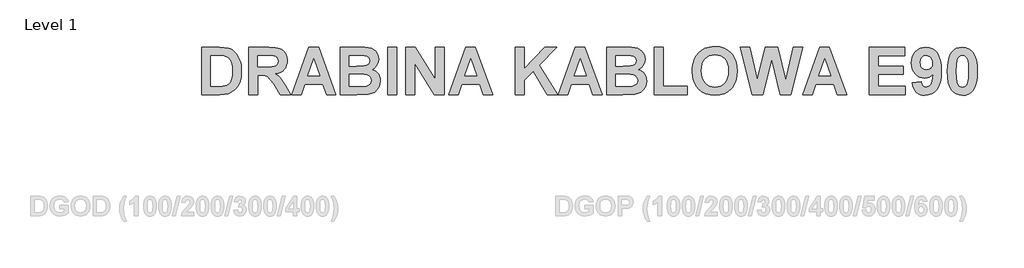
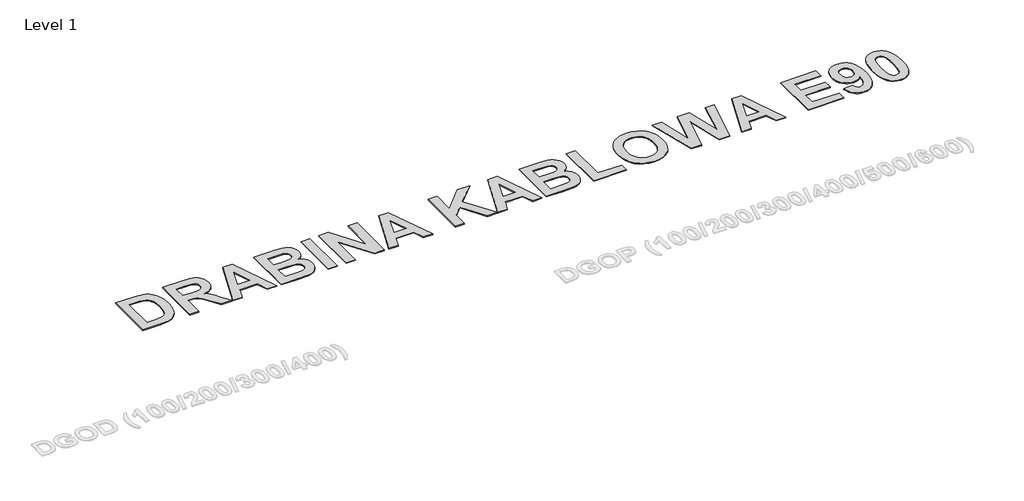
# One storey, part 31 of 42: 1 proxy.
"""IFC4 building model written with IfcOpenShell, lengths in millimetres."""

import ifcopenshell
import ifcopenshell.guid

model = None  # the IFC model being written
_history = None  # IfcOwnerHistory: only IFC2X3 demands one
_inside = {}  # id of a spatial element -> (the spatial element, [elements in it])
_under = {}  # id of a project, library or spatial element -> (it, [spatial elements below it])
_declared = {}  # id of a project -> (the project, [libraries it declares])
_typed = {}  # id of a type object -> (the type object, [elements of that type])
_made_of = {}  # id of a material, layer set ... -> (it, [elements and type objects made of it])


def new_model(schema):
    """Start an empty IFC model of exactly this schema.

    Asked for "IFC4X3", IfcOpenShell would pick the latest addendum, in which some entities
    have other attributes; the version numbers below select the first issue.
    IFC2X3 requires an IfcOwnerHistory on every rooted entity: one is made here for all.
    """
    global model, _history
    if schema == "IFC4X3":
        model = ifcopenshell.file(schema_version=(4, 3, 0, 0))
    else:
        model = ifcopenshell.file(schema=schema)
    _inside.clear()
    _under.clear()
    _declared.clear()
    _typed.clear()
    _made_of.clear()
    _history = None
    if model.schema == "IFC2X3":
        org = make("IfcOrganization", Name="unknown")
        user = make(
            "IfcPersonAndOrganization",
            ThePerson=make("IfcPerson", FamilyName="unknown"),
            TheOrganization=org,
        )
        app = make(
            "IfcApplication",
            ApplicationDeveloper=org,
            Version="unknown",
            ApplicationFullName="unknown",
            ApplicationIdentifier="unknown",
        )
        _history = make(
            "IfcOwnerHistory",
            OwningUser=user,
            OwningApplication=app,
            ChangeAction="ADDED",
            CreationDate=0,
        )
    return model


def make(cls, **values):
    """One entity of the class cls with the attributes given. An attribute that is None is left unset."""
    return model.create_entity(
        cls, **{name: value for name, value in values.items() if value is not None}
    )


def rooted(cls, **values):
    """An entity with a GlobalId (a new one), such as an element, a storey or a relation."""
    return make(cls, GlobalId=ifcopenshell.guid.new(), OwnerHistory=_history, **values)


def si_unit(unit_type, name, prefix=None):
    """IfcSIUnit, for example si_unit("LENGTHUNIT", "METRE", prefix="MILLI")."""
    return make("IfcSIUnit", UnitType=unit_type, Prefix=prefix, Name=name)


def assignment(units):
    """IfcUnitAssignment: the units of a project."""
    return None if units is None else make("IfcUnitAssignment", Units=units)


def point(xyz):
    """IfcCartesianPoint."""
    return None if xyz is None else make("IfcCartesianPoint", Coordinates=xyz)


def direction(xyz):
    """IfcDirection."""
    return None if xyz is None else make("IfcDirection", DirectionRatios=xyz)


def frame(location, z_axis=None, x_axis=None):
    """IfcAxis2Placement3D, a coordinate frame: its origin and axes. An axis left out is left unset."""
    return make(
        "IfcAxis2Placement3D",
        Location=point(location),
        Axis=direction(z_axis),
        RefDirection=direction(x_axis),
    )


def origin():
    """The frame at (0, 0, 0) with its axes left unset."""
    return frame((0.0, 0.0, 0.0))


def origin_with_axes():
    """The frame at (0, 0, 0) with the z axis (0, 0, 1) and the x axis (1, 0, 0) written out."""
    return frame((0.0, 0.0, 0.0), z_axis=(0.0, 0.0, 1.0), x_axis=(1.0, 0.0, 0.0))


def place(relative_to, where):
    """IfcLocalPlacement: puts the frame where relative to a parent placement (None: the world)."""
    return make(
        "IfcLocalPlacement", PlacementRelTo=relative_to, RelativePlacement=where
    )


def context(
    kind, dimensions, precision=None, world=None, true_north=None, identifier=None
):
    """IfcGeometricRepresentationContext, for example the 3D "Model" context."""
    return make(
        "IfcGeometricRepresentationContext",
        ContextIdentifier=identifier,
        ContextType=kind,
        CoordinateSpaceDimension=dimensions,
        Precision=precision,
        WorldCoordinateSystem=world,
        TrueNorth=true_north,
    )


def project(units=None, contexts=None):
    """IfcProject with its units and contexts."""
    return rooted(
        "IfcProject",
        Name="project",
        RepresentationContexts=contexts,
        UnitsInContext=assignment(units),
    )


def spatial(cls, under=None, at=None, **own):
    """A site, building, storey or space (cls), placed at a placement, below another one or the project."""
    s = rooted(cls, ObjectPlacement=at, **own)
    if under is not None:
        _under.setdefault(under.id(), (under, []))[1].append(s)
    return s


def polyline(points):
    """IfcPolyline through the points."""
    return make("IfcPolyline", Points=[point(p) for p in points])


def outline(outer, holes=None, kind="AREA"):
    """IfcArbitraryClosedProfileDef: a profile drawn as a closed curve; with holes, ...WithVoids."""
    if holes is None:
        return make("IfcArbitraryClosedProfileDef", ProfileType=kind, OuterCurve=outer)
    return make(
        "IfcArbitraryProfileDefWithVoids",
        ProfileType=kind,
        OuterCurve=outer,
        InnerCurves=holes,
    )


def extrude(swept, where, along, depth):
    """IfcExtrudedAreaSolid: the profile swept, set in the frame where, extruded along a direction by depth."""
    return make(
        "IfcExtrudedAreaSolid",
        SweptArea=swept,
        Position=where,
        ExtrudedDirection=direction(along),
        Depth=depth,
    )


def shape(context_of_items, identifier, shape_type, items):
    """IfcShapeRepresentation: the items that make up one representation, for example the "Body"."""
    return make(
        "IfcShapeRepresentation",
        ContextOfItems=context_of_items,
        RepresentationIdentifier=identifier,
        RepresentationType=shape_type,
        Items=items,
    )


def made_of(thing, what):
    """Note that an element or type object is made of a material, layer set ...; save() writes the relation."""
    if what is not None:
        _made_of.setdefault(what.id(), (what, []))[1].append(thing)
    return thing


def element(
    cls,
    number,
    at=None,
    inside=None,
    cuts=None,
    type_object=None,
    material=None,
    context=None,
    identifier="Body",
    shape_type=None,
    held_by="IfcProductDefinitionShape",
    body=None,
    shapes=None,
    **own,
):
    """One element of the class cls, such as IfcWall. Its Tag is "e" and its number.

    at: its placement. inside: the storey or other place that contains it. cuts: it is an
    opening in that element (IfcRelVoidsElement). A single representation is given by context,
    identifier, shape_type and body (its items); several are given by shapes. held_by: the class
    of the entity that holds the representations. save() writes the other relations.
    """
    e = rooted(cls, Tag="e%d" % number, ObjectPlacement=at, **own)
    if body is not None:
        shapes = [shape(context, identifier, shape_type, body)]
    if shapes is not None:
        e.Representation = make(held_by, Representations=shapes)
    if inside is not None:
        _inside.setdefault(inside.id(), (inside, []))[1].append(e)
    if cuts is not None:
        rooted(
            "IfcRelVoidsElement", RelatingBuildingElement=cuts, RelatedOpeningElement=e
        )
    if type_object is not None:
        _typed.setdefault(type_object.id(), (type_object, []))[1].append(e)
    return made_of(e, material)


def aggregate(whole, parts):
    """IfcRelAggregates: a whole, such as a stair, and the parts it consists of."""
    return rooted("IfcRelAggregates", RelatingObject=whole, RelatedObjects=parts)


def save(model, path):
    """Write the relations noted so far, then the file.

    IfcRelAggregates (storeys below a building ...), IfcRelContainedInSpatialStructure (elements
    in a storey), IfcRelDefinesByType, IfcRelAssociatesMaterial and IfcRelDeclares: one each for
    every whole, place, type object, material and project.
    """
    for whole, parts in _under.values():
        aggregate(whole, parts)
    for where, things in _inside.values():
        rooted(
            "IfcRelContainedInSpatialStructure",
            RelatedElements=things,
            RelatingStructure=where,
        )
    for kind, things in _typed.values():
        rooted("IfcRelDefinesByType", RelatedObjects=things, RelatingType=kind)
    for what, things in _made_of.values():
        rooted("IfcRelAssociatesMaterial", RelatedObjects=things, RelatingMaterial=what)
    for by, libraries in _declared.values():
        rooted("IfcRelDeclares", RelatingContext=by, RelatedDefinitions=libraries)
    model.write(path)


model = new_model("IFC4")

# Units and contexts
model_context = context("Model", 3, world=origin())
ifc_project = project(units=[si_unit("LENGTHUNIT", "METRE", prefix="MILLI")], contexts=[model_context])

# Site, building, storey
site = spatial("IfcSite", under=ifc_project)
building = spatial("IfcBuilding", under=site)
storey = spatial("IfcBuildingStorey", under=building, Name="Level 1", Elevation=0.0)

# Proxy
placement = place(None, origin())
element("IfcBuildingElementProxy", 1, Name="600mm Arial", ObjectType="600mm Arial", at=placement, inside=storey, context=model_context, shape_type="SweptSolid", body=[
    extrude(outline(polyline([(15755.7457223, 6390.0050794), (15982.4194253, 6390.0050794), (16049.9812456, 6387.0824614), (16099.3241482, 6378.3146072), (16125.3809963, 6368.8113539), (16149.5020844, 6356.2431473), (16171.6874125, 6340.6099873), (16191.9369806, 6321.911874), (16210.0657528, 6300.5426016), (16225.8886931, 6276.8959644), (16250.6170785, 6222.770596), (16259.4181443, 6191.7177789), (16265.7046199, 6157.2394258), (16270.7338003, 6078.0061112), (16266.0272465, 6007.7114531), (16251.9075852, 5947.7408485), (16239.1353647, 5915.9336544), (16223.895999, 5887.3147709), (16206.1894882, 5861.8841981), (16186.0158323, 5839.6419359), (16148.1356656, 5811.782174), (16098.8686752, 5790.7545063), (16050.9301476, 5781.0757062), (15989.0996951, 5777.8494395), (15755.7457223, 5777.8494395), (15755.7457223, 6390.0050794)]), holes=[polyline([(15872.3467965, 6283.1207614), (15872.3467965, 5884.7337576), (15971.6398989, 5884.7337576), (16019.6163825, 5886.1760886), (16052.1067861, 5890.5030816), (16081.6935495, 5900.3906401), (16105.7766816, 5915.4781814), (16125.1532598, 5938.840148), (16140.620362, 5973.5509821), (16150.754635, 6021.2997293), (16154.132726, 6083.7754351), (16150.754635, 6145.3781511), (16140.620362, 6190.8115776), (16124.4320943, 6224.0611026), (16102.8920196, 6249.1121147), (16075.3928404, 6266.6478231), (16041.3272597, 6277.3514374), (16000.0690019, 6281.6784304), (15932.1655768, 6283.1207614), (15872.3467965, 6283.1207614)])]), origin_with_axes(), (0.0, 0.0, 1.0), 10.0),
    extrude(outline(polyline([(16367.9013622, 5777.8494395), (16367.9013622, 6390.0050794), (16625.3954013, 6390.0050794), (16709.2783356, 6385.8678669), (16741.256332, 6380.6963511), (16766.5920147, 6373.4562291), (16787.5058141, 6363.5686705), (16806.218161, 6350.4548453), (16822.7290553, 6334.1147533), (16837.038497, 6314.5483947), (16848.596123, 6292.6002921), (16856.8515702, 6269.1149683), (16861.8048385, 6244.0924233), (16863.4559279, 6217.5326571), (16861.0694395, 6184.4254673), (16853.9099741, 6154.3357858), (16841.9775318, 6127.2636125), (16825.2721126, 6103.2089475), (16803.8126945, 6082.750621), (16777.6182556, 6066.4674632), (16746.6887958, 6054.359474), (16711.0243152, 6046.4266535), (16744.8431815, 6022.0588509), (16772.2095143, 5995.4136835), (16800.5247492, 5956.8123513), (16837.1903213, 5896.5760542), (16912.0397089, 5777.8494395), (16775.8532979, 5777.8494395), (16687.1878977, 5917.679634), (16644.3544627, 5971.3685076), (16617.576449, 6000.6516224), (16598.2568049, 6015.0559544), (16577.7984784, 6024.1084792), (16550.6409039, 6028.8909451), (16511.223516, 6030.4851004), (16484.5024365, 6030.4851004), (16484.5024365, 5777.8494395), (16367.9013622, 5777.8494395)]), holes=[polyline([(16484.5024365, 6137.3694185), (16580.6072282, 6137.3694185), (16656.4624518, 6139.1343762), (16697.2842146, 6144.4292492), (16718.0461898, 6154.0321371), (16733.7220504, 6168.7211396), (16743.5716528, 6188.0977179), (16746.8548536, 6211.7633331), (16742.5278607, 6237.9720055), (16729.5468817, 6258.6011344), (16708.6710383, 6273.1572907), (16680.6594521, 6281.1470453), (16585.9210792, 6283.1207614), (16484.5024365, 6283.1207614), (16484.5024365, 6137.3694185)])]), origin_with_axes(), (0.0, 0.0, 1.0), 10.0),
    extrude(outline(polyline([(17495.0450803, 5777.8494395), (17372.5228577, 5777.8494395), (17324.546374, 5913.8840261), (17093.3179415, 5913.8840261), (17045.9487551, 5777.8494395), (16921.7564651, 5777.8494395), (17145.2418574, 6390.0050794), (17269.4341475, 6390.0050794), (17495.0450803, 5777.8494395)]), holes=[polyline([(17287.1975924, 6020.7683442), (17208.4007727, 6244.2537366), (17130.6667232, 6020.7683442), (17287.1975924, 6020.7683442)])]), origin_with_axes(), (0.0, 0.0, 1.0), 10.0),
    extrude(outline(polyline([(17553.3456174, 6390.0050794), (17804.6148595, 6390.0050794), (17869.6905567, 6388.4868363), (17915.8261706, 6383.9321068), (17950.5559828, 6374.5379773), (17981.4142749, 6358.501534), (18007.926596, 6335.9556231), (18029.618495, 6307.033091), (18044.0797611, 6272.9675103), (18048.9001831, 6234.9924534), (18043.1498372, 6193.6203274), (18025.8987993, 6155.7401607), (17998.779181, 6124.122747), (17963.4230935, 6101.5388801), (17987.240533, 6091.9929262), (18008.1353544, 6079.6002665), (18026.1075578, 6064.3609008), (18041.157143, 6046.2748292), (18053.0468847, 6025.9019039), (18061.5395574, 6003.801977), (18066.635161, 5979.9750485), (18068.3336955, 5954.4211184), (18063.4563394, 5913.4095751), (18048.824271, 5873.5746704), (18025.746975, 5838.275517), (17995.5339362, 5810.8712281), (17957.8245719, 5791.9121667), (17912.2582992, 5781.948696), (17762.5595241, 5777.8494395), (17553.3456174, 5777.8494395), (17553.3456174, 6390.0050794)]), holes=[polyline([(17669.9466917, 6040.2018566), (17669.9466917, 5884.7337576), (17793.2280359, 5884.7337576), (17884.6262738, 5888.3775411), (17911.6130458, 5896.5191201), (17933.0582304, 5911.5307492), (17947.0640235, 5933.1087801), (17951.7326212, 5960.9495639), (17948.1267937, 5985.0896301), (17937.3093112, 6005.282264), (17919.6976906, 6021.0340368), (17895.7094488, 6031.8515193), (17852.5913432, 6038.1142723), (17777.5901314, 6040.2018566), (17669.9466917, 6040.2018566)]), polyline([(17669.9466917, 6283.1207614), (17669.9466917, 6147.0861747), (17758.9157406, 6147.0861747), (17857.6015456, 6149.0598908), (17888.6685962, 6156.1576775), (17912.3342113, 6170.1634706), (17927.3078845, 6190.3940607), (17932.2991088, 6216.1662382), (17927.9910939, 6240.8187115), (17915.067049, 6260.4230262), (17893.6787986, 6274.1441487), (17863.9781669, 6281.1470453), (17747.9843899, 6283.1207614), (17669.9466917, 6283.1207614)])]), origin_with_axes(), (0.0, 0.0, 1.0), 10.0),
    extrude(outline(polyline([(18165.5012574, 5777.8494395), (18165.5012574, 6390.0050794), (18282.1023317, 6390.0050794), (18282.1023317, 5777.8494395), (18165.5012574, 5777.8494395)])), origin_with_axes(), (0.0, 0.0, 1.0), 10.0),
    extrude(outline(polyline([(18398.703406, 5777.8494395), (18398.703406, 6390.0050794), (18520.9219799, 6390.0050794), (18777.6568974, 5977.9538873), (18777.6568974, 6390.0050794), (18894.2579716, 6390.0050794), (18894.2579716, 5777.8494395), (18768.2437898, 5777.8494395), (18515.3044802, 6183.827659), (18515.3044802, 5777.8494395), (18398.703406, 5777.8494395)])), origin_with_axes(), (0.0, 0.0, 1.0), 10.0),
    extrude(outline(polyline([(19525.847124, 5777.8494395), (19403.3249014, 5777.8494395), (19355.3484177, 5913.8840261), (19124.1199853, 5913.8840261), (19076.7507988, 5777.8494395), (18952.5585088, 5777.8494395), (19176.0439012, 6390.0050794), (19300.2361912, 6390.0050794), (19525.847124, 5777.8494395)]), holes=[polyline([(19317.9996361, 6020.7683442), (19239.2028164, 6244.2537366), (19161.4687669, 6020.7683442), (19317.9996361, 6020.7683442)])]), origin_with_axes(), (0.0, 0.0, 1.0), 10.0),
    extrude(outline(polyline([(19817.3498097, 5777.8494395), (19817.3498097, 6390.0050794), (19933.950884, 6390.0050794), (19933.950884, 6110.9519876), (20196.6069497, 6390.0050794), (20356.6297783, 6390.0050794), (20124.9458728, 6156.1956336), (20366.3465344, 5777.8494395), (20230.0082992, 5777.8494395), (20049.1855394, 6079.5243543), (19933.950884, 5963.0751043), (19933.950884, 5777.8494395), (19817.3498097, 5777.8494395)])), origin_with_axes(), (0.0, 0.0, 1.0), 10.0),
    extrude(outline(polyline([(20944.4935278, 5777.8494395), (20821.9713052, 5777.8494395), (20773.9948215, 5913.8840261), (20542.766389, 5913.8840261), (20495.3972026, 5777.8494395), (20371.2049125, 5777.8494395), (20594.6903049, 6390.0050794), (20718.882595, 6390.0050794), (20944.4935278, 5777.8494395)]), holes=[polyline([(20736.6460399, 6020.7683442), (20657.8492201, 6244.2537366), (20580.1151706, 6020.7683442), (20736.6460399, 6020.7683442)])]), origin_with_axes(), (0.0, 0.0, 1.0), 10.0),
    extrude(outline(polyline([(21002.7940649, 6390.0050794), (21254.063307, 6390.0050794), (21319.1390042, 6388.4868363), (21365.2746181, 6383.9321068), (21400.0044302, 6374.5379773), (21430.8627224, 6358.501534), (21457.3750434, 6335.9556231), (21479.0669425, 6307.033091), (21493.5282086, 6272.9675103), (21498.3486306, 6234.9924534), (21492.5982846, 6193.6203274), (21475.3472468, 6155.7401607), (21448.2276284, 6124.122747), (21412.871541, 6101.5388801), (21436.6889805, 6091.9929262), (21457.5838019, 6079.6002665), (21475.5560052, 6064.3609008), (21490.6055905, 6046.2748292), (21502.4953322, 6025.9019039), (21510.9880048, 6003.801977), (21516.0836084, 5979.9750485), (21517.782143, 5954.4211184), (21512.9047868, 5913.4095751), (21498.2727184, 5873.5746704), (21475.1954225, 5838.275517), (21444.9823837, 5810.8712281), (21407.2730193, 5791.9121667), (21361.7067467, 5781.948696), (21212.0079716, 5777.8494395), (21002.7940649, 5777.8494395), (21002.7940649, 6390.0050794)]), holes=[polyline([(21119.3951392, 6283.1207614), (21119.3951392, 6147.0861747), (21208.364188, 6147.0861747), (21307.0499931, 6149.0598908), (21338.1170436, 6156.1576775), (21361.7826588, 6170.1634706), (21376.7563319, 6190.3940607), (21381.7475563, 6216.1662382), (21377.4395414, 6240.8187115), (21364.5154965, 6260.4230262), (21343.1272461, 6274.1441487), (21313.4266143, 6281.1470453), (21197.4328373, 6283.1207614), (21119.3951392, 6283.1207614)]), polyline([(21119.3951392, 6040.2018566), (21119.3951392, 5884.7337576), (21242.6764833, 5884.7337576), (21334.0747212, 5888.3775411), (21361.0614933, 5896.5191201), (21382.5066779, 5911.5307492), (21396.512471, 5933.1087801), (21401.1810687, 5960.9495639), (21397.5752412, 5985.0896301), (21386.7577587, 6005.282264), (21369.1461381, 6021.0340368), (21345.1578963, 6031.8515193), (21302.0397907, 6038.1142723), (21227.0385788, 6040.2018566), (21119.3951392, 6040.2018566)])]), origin_with_axes(), (0.0, 0.0, 1.0), 10.0),
    extrude(outline(polyline([(21614.9497049, 5777.8494395), (21614.9497049, 6390.0050794), (21731.5507791, 6390.0050794), (21731.5507791, 5884.7337576), (22042.4869772, 5884.7337576), (22042.4869772, 5777.8494395), (21614.9497049, 5777.8494395)])), origin_with_axes(), (0.0, 0.0, 1.0), 10.0),
    extrude(outline(polyline([(22110.5042706, 6080.1316516), (22112.2217831, 6124.9388027), (22117.3743208, 6165.988302), (22125.9618837, 6203.2801495), (22137.9844717, 6236.8143451), (22162.219428, 6281.0521551), (22193.9317319, 6320.5454551), (22231.0717551, 6352.8650563), (22271.5898693, 6375.5817695), (22300.7591159, 6386.1430484), (22332.091859, 6393.6868191), (22365.5880986, 6398.2130815), (22401.2478347, 6399.7218356), (22464.3498158, 6394.4886413), (22520.8094831, 6378.7890581), (22570.6268366, 6352.6230863), (22613.8018763, 6315.9907257), (22632.4833839, 6294.0366924), (22648.6740238, 6270.0401477), (22673.5827006, 6215.9195237), (22688.5279066, 6153.6288538), (22693.509642, 6083.1681379), (22688.5658627, 6013.1866175), (22673.7345249, 5951.2707638), (22649.0156285, 5897.4205769), (22632.9483459, 5873.5201085), (22614.4091736, 5851.6360568), (22571.5188045, 5815.1033309), (22521.9481655, 5789.0085267), (22465.6972566, 5773.3516441), (22402.7660778, 5768.1326833), (22339.1706677, 5773.3279216), (22282.4453078, 5788.9136365), (22232.5899982, 5814.8898279), (22189.6047389, 5851.256496), (22154.998284, 5896.732623), (22130.2793876, 5950.0371913), (22115.4480498, 6011.1702008), (22110.5042706, 6080.1316516)]), holes=[polyline([(22227.1053448, 6084.3827324), (22230.2035098, 6035.9602648), (22239.4980046, 5993.7815721), (22254.9888293, 5957.8466545), (22276.6759838, 5928.1555118), (22303.1361153, 5904.9074135), (22332.9458708, 5888.301629), (22366.1052502, 5878.3381583), (22402.6142535, 5875.0170014), (22439.0853008, 5878.3144357), (22472.130812, 5888.2067388), (22501.750787, 5904.6939105), (22527.9452259, 5927.775951), (22549.366688, 5957.4528602), (22564.6677322, 5993.724638), (22573.8483588, 6036.5912846), (22576.9085677, 6086.0527999), (22573.9290155, 6134.8263612), (22564.9903589, 6176.9955648), (22550.092598, 6212.5604107), (22529.2357326, 6241.5208989), (22503.444577, 6263.9719196), (22473.7439453, 6280.0083629), (22440.1338375, 6289.6302289), (22402.6142535, 6292.8375175), (22365.0567135, 6289.5922728), (22331.3327374, 6279.8565386), (22301.4423253, 6263.6303149), (22275.3854772, 6240.9136017), (22254.2629193, 6211.6589539), (22239.1753779, 6175.8189264), (22230.1228531, 6133.3935192), (22227.1053448, 6084.3827324)])]), origin_with_axes(), (0.0, 0.0, 1.0), 10.0),
    extrude(outline(polyline([(22886.4783469, 5777.8494395), (22732.3766667, 6390.0050794), (22852.0142273, 6390.0050794), (22951.003681, 5969.4517256), (23057.4325261, 6390.0050794), (23214.267044, 6390.0050794), (23320.2404162, 5962.4678071), (23419.2298699, 6390.0050794), (23538.8674305, 6390.0050794), (23387.043115, 5777.8494395), (23249.0348123, 5777.8494395), (23135.6220486, 6235.4479263), (23019.9319202, 5777.8494395), (22886.4783469, 5777.8494395)])), origin_with_axes(), (0.0, 0.0, 1.0), 10.0),
    extrude(outline(polyline([(24112.1560457, 5777.8494395), (23989.6338231, 5777.8494395), (23941.6573394, 5913.8840261), (23710.428907, 5913.8840261), (23663.0597206, 5777.8494395), (23538.8674305, 5777.8494395), (23762.3528229, 6390.0050794), (23886.5451129, 6390.0050794), (24112.1560457, 5777.8494395)]), holes=[polyline([(23904.3085578, 6020.7683442), (23825.5117381, 6244.2537366), (23747.7776886, 6020.7683442), (23904.3085578, 6020.7683442)])]), origin_with_axes(), (0.0, 0.0, 1.0), 10.0),
    extrude(outline(polyline([(24403.6587314, 5777.8494395), (24403.6587314, 6390.0050794), (24860.3462723, 6390.0050794), (24860.3462723, 6283.1207614), (24520.2598057, 6283.1207614), (24520.2598057, 6147.0861747), (24840.91276, 6147.0861747), (24840.91276, 6040.2018566), (24520.2598057, 6040.2018566), (24520.2598057, 5884.7337576), (24870.0630285, 5884.7337576), (24870.0630285, 5777.8494395), (24403.6587314, 5777.8494395)])), origin_with_axes(), (0.0, 0.0, 1.0), 10.0),
    extrude(outline(polyline([(24957.5138342, 5930.5847008), (25074.1149085, 5943.0342947), (25081.2696294, 5912.8971681), (25094.8389276, 5891.7176761), (25114.291418, 5879.19217), (25139.0957156, 5875.0170014), (25155.7584342, 5877.0334181), (25171.1306461, 5883.0826681), (25185.2123514, 5893.1647516), (25198.00355, 5907.2796684), (25209.0582579, 5927.8186516), (25217.9304914, 5957.1729341), (25224.6202503, 5995.3425159), (25229.1275346, 6042.327397), (25206.1356399, 6020.1420689), (25180.4298854, 6004.295406), (25152.0102714, 5994.7874082), (25120.8767977, 5991.6180757), (25086.7874944, 5995.0198892), (25055.1178911, 6005.2253299), (25025.8679878, 6022.2343978), (24999.0377845, 6046.0470928), (24976.6199754, 6075.3159741), (24960.6072547, 6108.6936009), (24950.9996222, 6146.1799733), (24947.7970781, 6187.7750912), (24951.0850234, 6231.0402766), (24960.9488594, 6269.8930679), (24977.388586, 6304.3334649), (25000.4042034, 6334.3614678), (25028.5059353, 6358.7055479), (25060.2040056, 6376.0941765), (25095.4984145, 6386.5273537), (25134.3891618, 6390.0050794), (25176.6627446, 6385.5310067), (25214.9699172, 6372.1087883), (25249.3106796, 6349.7384243), (25279.6850317, 6318.4199147), (25304.5272853, 6276.8532638), (25322.2717522, 6223.738476), (25332.9184323, 6159.0755511), (25336.4673257, 6082.8644893), (25332.757119, 6005.1826293), (25321.6264988, 5939.1437966), (25303.0754653, 5884.7479911), (25277.1040183, 5841.9952128), (25245.182956, 5809.6803561), (25208.7830764, 5786.5983157), (25167.9043794, 5772.7490914), (25122.5468652, 5768.1326833), (25089.8856593, 5770.6757406), (25060.5266323, 5778.3049124), (25034.4697842, 5791.0201988), (25011.7151149, 5808.8215998), (24992.4998499, 5831.6901373), (24977.0612149, 5859.6068334), (24965.3992096, 5892.5716878), (24957.5138342, 5930.5847008)]), holes=[polyline([(25219.8662514, 6185.0422536), (25218.3005631, 6207.0425458), (25213.6034984, 6226.4333576), (25205.7750571, 6243.2146889), (25194.8152393, 6257.3865399), (25181.8057933, 6268.6452618), (25167.8284673, 6276.687206), (25152.8832612, 6281.5123725), (25136.9701751, 6283.1207614), (25108.3512917, 6277.8448664), (25085.0462592, 6262.0171815), (25076.0127125, 6249.7858351), (25069.5601791, 6234.1953757), (25064.3981523, 6192.937118), (25065.8025273, 6170.1871932), (25070.015652, 6150.6730241), (25077.0375266, 6134.3946108), (25086.868151, 6121.3519532), (25112.1089435, 6104.2147836), (25142.8913234, 6098.5023937), (25172.8196916, 6103.9870471), (25197.6239892, 6120.4410073), (25207.3549789, 6132.7055653), (25214.3056858, 6147.5606257), (25219.8662514, 6185.0422536)])]), origin_with_axes(), (0.0, 0.0, 1.0), 10.0),
    extrude(outline(polyline([(25608.536499, 6390.0050794), (25649.6524214, 6386.0576472), (25686.004856, 6374.2153506), (25717.5938026, 6354.4781896), (25744.4192613, 6326.8461642), (25769.9921695, 6283.3390088), (25788.2585324, 6227.5151058), (25799.2183502, 6159.3744552), (25802.8716228, 6078.917057), (25799.1993722, 5998.535571), (25788.1826203, 5930.3190083), (25769.8213671, 5874.2673688), (25744.1156127, 5830.3806526), (25717.4230002, 5803.147166), (25685.9289438, 5783.6946756), (25649.6334434, 5772.0231814), (25608.536499, 5768.1326833), (25566.9983152, 5772.4027422), (25529.6827451, 5785.2129188), (25496.5897889, 5806.5632131), (25467.7194464, 5836.4536252), (25444.3052902, 5877.3038551), (25427.580893, 5931.5336028), (25417.5462546, 5999.1428683), (25414.2013752, 6080.1316516), (25417.8736258, 6160.1145988), (25428.8903777, 6228.0464909), (25447.2516309, 6283.927328), (25472.9573853, 6327.7571101), (25499.6499977, 6354.9905967), (25531.1440542, 6374.4430871), (25567.4395546, 6386.1145814), (25608.536499, 6390.0050794)]), holes=[polyline([(25608.536499, 6283.1207614), (25587.9643042, 6279.9134727), (25569.6694742, 6270.2916067), (25554.4870427, 6252.3573594), (25543.2520433, 6224.212927), (25533.9148479, 6166.2539945), (25530.8024495, 6078.917057), (25533.5732432, 5992.73778), (25541.8856245, 5938.5554774), (25554.4301086, 5906.7482833), (25569.8972107, 5887.6943317), (25588.0212384, 5878.186334), (25608.536499, 5875.0170014), (25629.1086937, 5878.22429), (25647.4035237, 5887.846156), (25662.5859553, 5905.7804033), (25673.8209546, 5933.9248358), (25683.15815, 5991.5801196), (25686.2705485, 6078.917057), (25683.4997547, 6165.0014439), (25675.1873735, 6219.2027245), (25662.6428894, 6251.1048088), (25647.1757873, 6270.2916067), (25629.0517596, 6279.9134727), (25608.536499, 6283.1207614)])]), origin_with_axes(), (0.0, 0.0, 1.0), 10.0),
])

save(model, "model.ifc")
